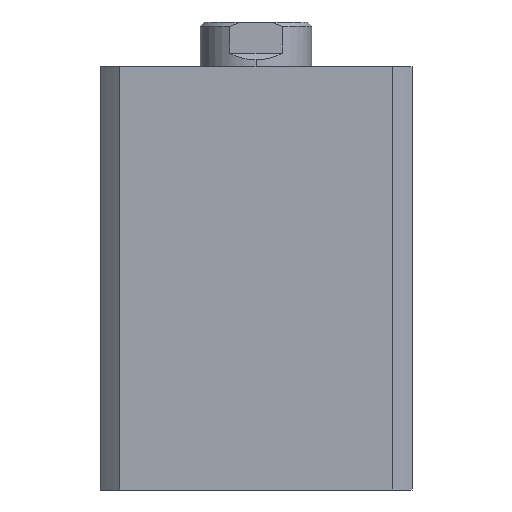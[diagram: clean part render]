
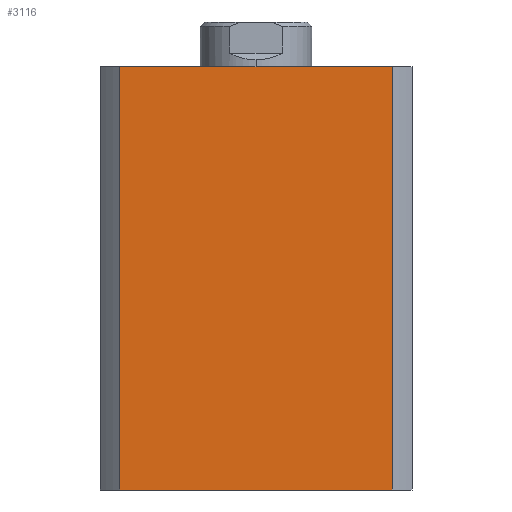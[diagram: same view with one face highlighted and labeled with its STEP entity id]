
A CAD part, left-side view. The second image highlights one B-rep face of the part: STEP entity #3116.
In plain terms, the highlighted planar face has unit normal (-1, 0, 0).
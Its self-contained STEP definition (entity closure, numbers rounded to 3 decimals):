
#468 = CARTESIAN_POINT ( 'NONE',  ( -35., 0., 95. ) ) ;
#472 = PLANE ( 'NONE',  #2696 ) ;
#474 = DIRECTION ( 'NONE',  ( 1., 0., 0. ) ) ;
#475 = DIRECTION ( 'NONE',  ( 0., 1., 0. ) ) ;
#692 = CARTESIAN_POINT ( 'NONE',  ( -35., -30.615, 0. ) ) ;
#726 = CARTESIAN_POINT ( 'NONE',  ( -35., -30.615, 95. ) ) ;
#727 = CARTESIAN_POINT ( 'NONE',  ( -35., 30.615, 95. ) ) ;
#780 = CARTESIAN_POINT ( 'NONE',  ( -35., 30.615, 0. ) ) ;
#1665 = DIRECTION ( 'NONE',  ( 0., -1., 0. ) ) ;
#1666 = CARTESIAN_POINT ( 'NONE',  ( -35., 0., 95. ) ) ;
#2145 = ORIENTED_EDGE ( 'NONE', *, *, #2348, .F. ) ;
#2146 = ORIENTED_EDGE ( 'NONE', *, *, #2312, .F. ) ;
#2147 = ORIENTED_EDGE ( 'NONE', *, *, #2313, .T. ) ;
#2312 = EDGE_CURVE ( 'NONE', #4580, #4510, #3626, .T. ) ;
#2313 = EDGE_CURVE ( 'NONE', #4663, #4510, #3625, .T. ) ;
#2314 = EDGE_CURVE ( 'NONE', #4571, #4663, #3628, .T. ) ;
#2348 = EDGE_CURVE ( 'NONE', #4571, #4580, #3671, .T. ) ;
#2696 = AXIS2_PLACEMENT_3D ( 'NONE', #468, #474, #475 ) ;
#3116 = ADVANCED_FACE ( 'NONE', ( #4026 ), #472, .F. ) ;
#3184 = DIRECTION ( 'NONE',  ( 0., 0., -1. ) ) ;
#3186 = DIRECTION ( 'NONE',  ( 0., -1., 0. ) ) ;
#3187 = DIRECTION ( 'NONE',  ( 0., 0., -1. ) ) ;
#3188 = CARTESIAN_POINT ( 'NONE',  ( -35., -30.615, 95. ) ) ;
#3193 = CARTESIAN_POINT ( 'NONE',  ( -35., 0., 0. ) ) ;
#3194 = CARTESIAN_POINT ( 'NONE',  ( -35., 30.615, 95. ) ) ;
#3625 = LINE ( 'NONE', #3193, #3631 ) ;
#3626 = LINE ( 'NONE', #3188, #3629 ) ;
#3628 = LINE ( 'NONE', #3194, #3633 ) ;
#3629 = VECTOR ( 'NONE', #3187, 1000. ) ;
#3631 = VECTOR ( 'NONE', #3186, 1000. ) ;
#3633 = VECTOR ( 'NONE', #3184, 1000. ) ;
#3671 = LINE ( 'NONE', #1666, #3673 ) ;
#3673 = VECTOR ( 'NONE', #1665, 1000. ) ;
#4026 = FACE_OUTER_BOUND ( 'NONE', #4533, .T. ) ;
#4510 = VERTEX_POINT ( 'NONE', #692 ) ;
#4533 = EDGE_LOOP ( 'NONE', ( #2147, #2146, #2145, #5018 ) ) ;
#4571 = VERTEX_POINT ( 'NONE', #727 ) ;
#4580 = VERTEX_POINT ( 'NONE', #726 ) ;
#4663 = VERTEX_POINT ( 'NONE', #780 ) ;
#5018 = ORIENTED_EDGE ( 'NONE', *, *, #2314, .T. ) ;
